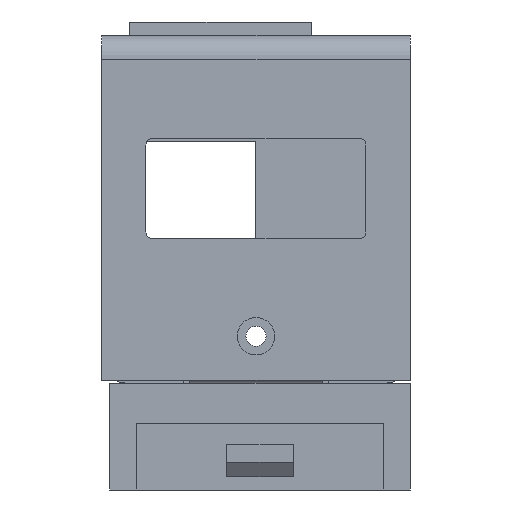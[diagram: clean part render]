
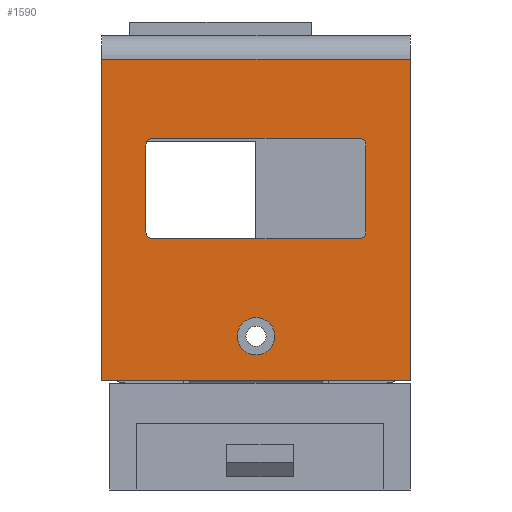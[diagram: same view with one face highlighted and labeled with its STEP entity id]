
A CAD part, front view. The second image highlights one B-rep face of the part: STEP entity #1590.
In plain terms, the highlighted planar face has unit normal (0, -1, 0).
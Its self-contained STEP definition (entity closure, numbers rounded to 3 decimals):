
#118 = EDGE_LOOP ( 'NONE', ( #651, #2456 ) ) ;
#167 = EDGE_CURVE ( 'NONE', #449, #1058, #1017, .T. ) ;
#191 = DIRECTION ( 'NONE',  ( 0., 1., 0. ) ) ;
#233 = AXIS2_PLACEMENT_3D ( 'NONE', #5221, #5858, #2718 ) ;
#296 = CARTESIAN_POINT ( 'NONE',  ( 18.426, -1.8, 16.7 ) ) ;
#391 = CARTESIAN_POINT ( 'NONE',  ( 10.2, -1.8, -5.8 ) ) ;
#449 = VERTEX_POINT ( 'NONE', #1228 ) ;
#487 = CIRCLE ( 'NONE', #233, 0.5 ) ;
#515 = CARTESIAN_POINT ( 'NONE',  ( 2.47, -1.8, 2. ) ) ;
#523 = CARTESIAN_POINT ( 'NONE',  ( 1.97, -1.8, 16.7 ) ) ;
#538 = VERTEX_POINT ( 'NONE', #2179 ) ;
#572 = VECTOR ( 'NONE', #3922, 1000. ) ;
#617 = CARTESIAN_POINT ( 'NONE',  ( 18.426, -1.8, 8.5 ) ) ;
#643 = VECTOR ( 'NONE', #3389, 1000. ) ;
#651 = ORIENTED_EDGE ( 'NONE', *, *, #3923, .F. ) ;
#662 = EDGE_CURVE ( 'NONE', #4699, #4199, #3976, .T. ) ;
#734 = LINE ( 'NONE', #6468, #6103 ) ;
#807 = EDGE_CURVE ( 'NONE', #1058, #4712, #6728, .T. ) ;
#833 = VECTOR ( 'NONE', #6242, 1000. ) ;
#834 = VERTEX_POINT ( 'NONE', #5857 ) ;
#914 = CARTESIAN_POINT ( 'NONE',  ( 21.75, -1.8, -9.1 ) ) ;
#994 = CIRCLE ( 'NONE', #5482, 0.5 ) ;
#1017 = CIRCLE ( 'NONE', #2953, 0.5 ) ;
#1031 = CARTESIAN_POINT ( 'NONE',  ( 17.926, -1.8, 2. ) ) ;
#1051 = DIRECTION ( 'NONE',  ( 0., 0., -1. ) ) ;
#1058 = VERTEX_POINT ( 'NONE', #1345 ) ;
#1207 = CARTESIAN_POINT ( 'NONE',  ( 2.47, -1.8, 9. ) ) ;
#1209 = AXIS2_PLACEMENT_3D ( 'NONE', #391, #6627, #6150 ) ;
#1228 = CARTESIAN_POINT ( 'NONE',  ( 1.97, -1.8, 2. ) ) ;
#1310 = CARTESIAN_POINT ( 'NONE',  ( -1.35, -1.8, 14.9 ) ) ;
#1345 = CARTESIAN_POINT ( 'NONE',  ( 2.47, -1.8, 1.5 ) ) ;
#1371 = CARTESIAN_POINT ( 'NONE',  ( 21.75, -1.8, 1.5 ) ) ;
#1481 = AXIS2_PLACEMENT_3D ( 'NONE', #4329, #4357, #5965 ) ;
#1549 = VERTEX_POINT ( 'NONE', #617 ) ;
#1558 = DIRECTION ( 'NONE',  ( 0., -1., 0. ) ) ;
#1590 = ADVANCED_FACE ( 'NONE', ( #3699, #2717, #5329 ), #6408, .F. ) ;
#1617 = LINE ( 'NONE', #3490, #2997 ) ;
#1666 = EDGE_CURVE ( 'NONE', #1549, #4699, #2323, .T. ) ;
#1782 = LINE ( 'NONE', #296, #572 ) ;
#1852 = CIRCLE ( 'NONE', #2796, 1.4 ) ;
#1856 = ORIENTED_EDGE ( 'NONE', *, *, #4865, .F. ) ;
#2053 = DIRECTION ( 'NONE',  ( 0., 0., -1. ) ) ;
#2110 = VECTOR ( 'NONE', #4191, 1000. ) ;
#2173 = VECTOR ( 'NONE', #2850, 1000. ) ;
#2179 = CARTESIAN_POINT ( 'NONE',  ( 10.2, -1.8, -7.2 ) ) ;
#2181 = CARTESIAN_POINT ( 'NONE',  ( 18.426, -1.8, 2. ) ) ;
#2227 = ORIENTED_EDGE ( 'NONE', *, *, #807, .F. ) ;
#2242 = EDGE_CURVE ( 'NONE', #4712, #4790, #994, .T. ) ;
#2281 = CARTESIAN_POINT ( 'NONE',  ( 21.75, -1.8, 16.7 ) ) ;
#2322 = ORIENTED_EDGE ( 'NONE', *, *, #3731, .F. ) ;
#2323 = CIRCLE ( 'NONE', #1481, 0.5 ) ;
#2456 = ORIENTED_EDGE ( 'NONE', *, *, #3827, .F. ) ;
#2512 = LINE ( 'NONE', #6322, #2110 ) ;
#2608 = EDGE_CURVE ( 'NONE', #4790, #1549, #1782, .T. ) ;
#2717 = FACE_BOUND ( 'NONE', #4049, .T. ) ;
#2718 = DIRECTION ( 'NONE',  ( 0., 0., -1. ) ) ;
#2746 = ORIENTED_EDGE ( 'NONE', *, *, #5935, .F. ) ;
#2796 = AXIS2_PLACEMENT_3D ( 'NONE', #5476, #2867, #6049 ) ;
#2824 = CARTESIAN_POINT ( 'NONE',  ( 10.2, -1.8, -4.4 ) ) ;
#2849 = EDGE_CURVE ( 'NONE', #5986, #834, #1617, .T. ) ;
#2850 = DIRECTION ( 'NONE',  ( -1., 0., 0. ) ) ;
#2867 = DIRECTION ( 'NONE',  ( 0., -1., 0. ) ) ;
#2953 = AXIS2_PLACEMENT_3D ( 'NONE', #515, #5165, #1051 ) ;
#2997 = VECTOR ( 'NONE', #5522, 1000. ) ;
#3025 = VERTEX_POINT ( 'NONE', #3125 ) ;
#3125 = CARTESIAN_POINT ( 'NONE',  ( 1.97, -1.8, 8.5 ) ) ;
#3248 = CARTESIAN_POINT ( 'NONE',  ( 17.926, -1.8, 9. ) ) ;
#3389 = DIRECTION ( 'NONE',  ( 1., 0., 0. ) ) ;
#3420 = DIRECTION ( 'NONE',  ( 0., 0., 1. ) ) ;
#3480 = ORIENTED_EDGE ( 'NONE', *, *, #2849, .F. ) ;
#3490 = CARTESIAN_POINT ( 'NONE',  ( 21.75, -1.8, 16.7 ) ) ;
#3699 = FACE_OUTER_BOUND ( 'NONE', #5183, .T. ) ;
#3731 = EDGE_CURVE ( 'NONE', #5707, #3870, #734, .T. ) ;
#3766 = VERTEX_POINT ( 'NONE', #2824 ) ;
#3827 = EDGE_CURVE ( 'NONE', #3766, #538, #1852, .T. ) ;
#3848 = ORIENTED_EDGE ( 'NONE', *, *, #2608, .F. ) ;
#3870 = VERTEX_POINT ( 'NONE', #1310 ) ;
#3922 = DIRECTION ( 'NONE',  ( 0., 0., 1. ) ) ;
#3923 = EDGE_CURVE ( 'NONE', #538, #3766, #6503, .T. ) ;
#3976 = LINE ( 'NONE', #6396, #2173 ) ;
#4030 = ORIENTED_EDGE ( 'NONE', *, *, #2242, .F. ) ;
#4049 = EDGE_LOOP ( 'NONE', ( #5739, #5650, #6634, #3848, #4030, #2227, #5099, #2746 ) ) ;
#4191 = DIRECTION ( 'NONE',  ( 1., 0., 0. ) ) ;
#4196 = VECTOR ( 'NONE', #5994, 1000. ) ;
#4199 = VERTEX_POINT ( 'NONE', #1207 ) ;
#4329 = CARTESIAN_POINT ( 'NONE',  ( 17.926, -1.8, 8.5 ) ) ;
#4357 = DIRECTION ( 'NONE',  ( 0., -1., 0. ) ) ;
#4699 = VERTEX_POINT ( 'NONE', #3248 ) ;
#4712 = VERTEX_POINT ( 'NONE', #4723 ) ;
#4723 = CARTESIAN_POINT ( 'NONE',  ( 17.926, -1.8, 1.5 ) ) ;
#4790 = VERTEX_POINT ( 'NONE', #2181 ) ;
#4802 = CARTESIAN_POINT ( 'NONE',  ( 21.75, -1.8, 14.9 ) ) ;
#4856 = LINE ( 'NONE', #914, #4196 ) ;
#4865 = EDGE_CURVE ( 'NONE', #3870, #5986, #2512, .T. ) ;
#5099 = ORIENTED_EDGE ( 'NONE', *, *, #167, .F. ) ;
#5165 = DIRECTION ( 'NONE',  ( 0., -1., 0. ) ) ;
#5183 = EDGE_LOOP ( 'NONE', ( #6077, #3480, #1856, #2322 ) ) ;
#5221 = CARTESIAN_POINT ( 'NONE',  ( 2.47, -1.8, 8.5 ) ) ;
#5329 = FACE_BOUND ( 'NONE', #118, .T. ) ;
#5400 = DIRECTION ( 'NONE',  ( 0., 0., 1. ) ) ;
#5476 = CARTESIAN_POINT ( 'NONE',  ( 10.2, -1.8, -5.8 ) ) ;
#5482 = AXIS2_PLACEMENT_3D ( 'NONE', #1031, #1558, #2053 ) ;
#5522 = DIRECTION ( 'NONE',  ( 0., 0., -1. ) ) ;
#5526 = CARTESIAN_POINT ( 'NONE',  ( -1.35, -1.8, -9.1 ) ) ;
#5609 = LINE ( 'NONE', #523, #833 ) ;
#5650 = ORIENTED_EDGE ( 'NONE', *, *, #662, .F. ) ;
#5707 = VERTEX_POINT ( 'NONE', #5526 ) ;
#5739 = ORIENTED_EDGE ( 'NONE', *, *, #6036, .F. ) ;
#5777 = AXIS2_PLACEMENT_3D ( 'NONE', #2281, #191, #5400 ) ;
#5857 = CARTESIAN_POINT ( 'NONE',  ( 21.75, -1.8, -9.1 ) ) ;
#5858 = DIRECTION ( 'NONE',  ( 0., -1., 0. ) ) ;
#5935 = EDGE_CURVE ( 'NONE', #3025, #449, #5609, .T. ) ;
#5965 = DIRECTION ( 'NONE',  ( 0., 0., -1. ) ) ;
#5986 = VERTEX_POINT ( 'NONE', #4802 ) ;
#5994 = DIRECTION ( 'NONE',  ( -1., 0., 0. ) ) ;
#6036 = EDGE_CURVE ( 'NONE', #4199, #3025, #487, .T. ) ;
#6049 = DIRECTION ( 'NONE',  ( 0., 0., -1. ) ) ;
#6077 = ORIENTED_EDGE ( 'NONE', *, *, #6455, .F. ) ;
#6103 = VECTOR ( 'NONE', #3420, 1000. ) ;
#6150 = DIRECTION ( 'NONE',  ( 0., 0., -1. ) ) ;
#6242 = DIRECTION ( 'NONE',  ( 0., 0., -1. ) ) ;
#6322 = CARTESIAN_POINT ( 'NONE',  ( 21.75, -1.8, 14.9 ) ) ;
#6396 = CARTESIAN_POINT ( 'NONE',  ( 21.75, -1.8, 9. ) ) ;
#6408 = PLANE ( 'NONE',  #5777 ) ;
#6455 = EDGE_CURVE ( 'NONE', #834, #5707, #4856, .T. ) ;
#6468 = CARTESIAN_POINT ( 'NONE',  ( -1.35, -1.8, 16.7 ) ) ;
#6503 = CIRCLE ( 'NONE', #1209, 1.4 ) ;
#6627 = DIRECTION ( 'NONE',  ( 0., -1., 0. ) ) ;
#6634 = ORIENTED_EDGE ( 'NONE', *, *, #1666, .F. ) ;
#6728 = LINE ( 'NONE', #1371, #643 ) ;
